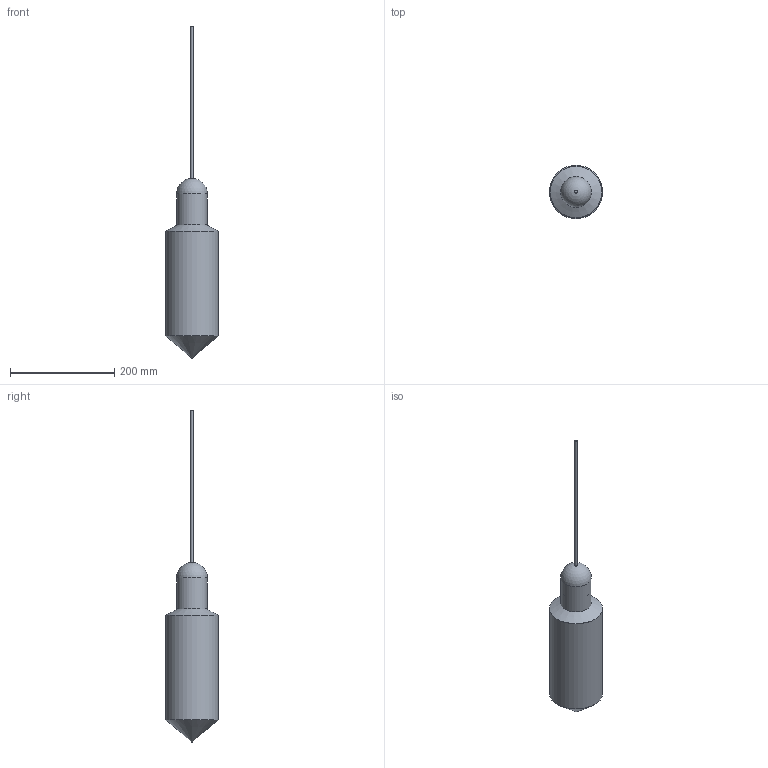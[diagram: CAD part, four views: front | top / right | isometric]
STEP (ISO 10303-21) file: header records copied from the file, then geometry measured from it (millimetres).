
FILE_DESCRIPTION(/* description */ ('','CAx-IF Rec.Pracs.---Representation and Presentation of Product Manufacturing Information (PMI)---4.0---2014-10-13'),/* implementation_level */ '2;1');
FILE_NAME(/* name */ 'Niche - Dart - Placebo Pendant.step',/* time_stamp */ '2025-01-09T10:29:18-05:00',/* author */ (''),/* organization */ (''),/* preprocessor_version */ 'ST-DEVELOPER v20',/* originating_system */ 'Autodesk Translation Framework v13.20.0.188',/* authorisation */ '');
FILE_SCHEMA (('AP242_MANAGED_MODEL_BASED_3D_ENGINEERING_MIM_LF { 1 0 10303 442 1 1 4 }'));
Length unit declared in the file: inch
Products named in the file (4): Dart - Modular; Modular - Placebo - Bayonet Connector; Dart Modular; Modular - Placedo - Cord Set
Assembly tree (3 placements, depth 2):
  Dart - Modular
    Modular - Placebo - Bayonet Connector
    Dart Modular
    Modular - Placedo - Cord Set
Bounding box: 101.6 x 101.6 x 636.19 mm (x, y, z)
Volume: 175705.1 mm3; surface area: 214648.3 mm2
Topology: 5 solids, 5 shells, 103 faces, 273 edges, 178 vertices
Faces by surface type: plane 64, cylinder 25, cone 8, torus 4, sphere 2
Full cylindrical faces by diameter (mm): 4.572 x1, 5.715 x1, 37.592 x1, 42.926 x1, 46.482 x1, 56.032 x1, 59.08 x1, 99.06 x1, 101.6 x1
Entity records: 3445 total; most frequent: CARTESIAN_POINT 685, DIRECTION 565, ORIENTED_EDGE 546, EDGE_CURVE 273, AXIS2_PLACEMENT_3D 194, VERTEX_POINT 178, LINE 177, VECTOR 177
